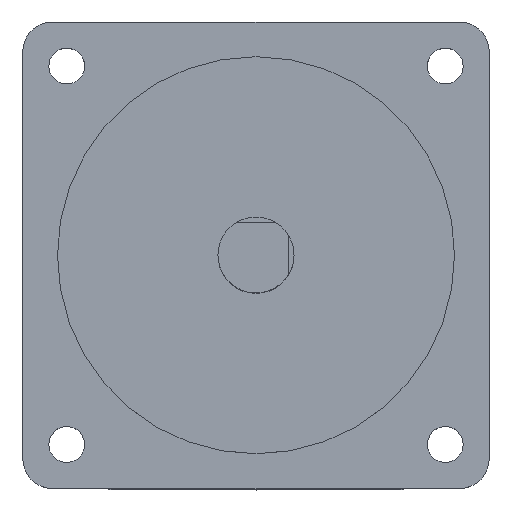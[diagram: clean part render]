
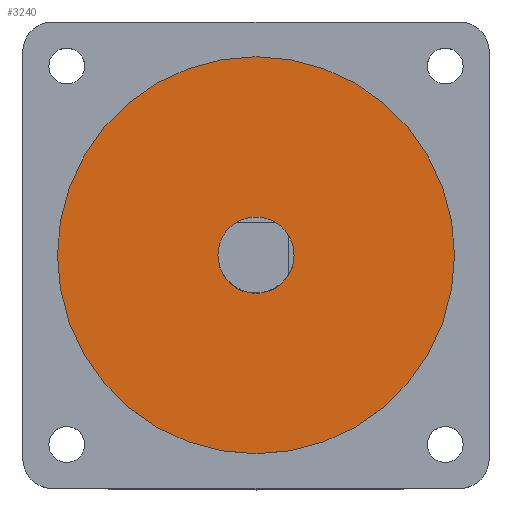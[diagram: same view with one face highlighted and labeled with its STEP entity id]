
A CAD part, top view. The second image highlights one B-rep face of the part: STEP entity #3240.
In plain terms, the highlighted planar face has unit normal (0, 0, 1).
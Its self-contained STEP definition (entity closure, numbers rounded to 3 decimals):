
#70 = AXIS2_PLACEMENT_3D ( 'NONE', #2989, #1177, #3288 ) ;
#221 = FACE_BOUND ( 'NONE', #2294, .T. ) ;
#259 = EDGE_CURVE ( 'NONE', #2209, #3895, #1147, .T. ) ;
#281 = CARTESIAN_POINT ( 'NONE',  ( 36.513, 0., 2. ) ) ;
#509 = CARTESIAN_POINT ( 'NONE',  ( -36.513, 0., 2. ) ) ;
#630 = ORIENTED_EDGE ( 'NONE', *, *, #3409, .T. ) ;
#791 = CARTESIAN_POINT ( 'NONE',  ( 0., 0., 2. ) ) ;
#1101 = EDGE_LOOP ( 'NONE', ( #1377, #1266 ) ) ;
#1102 = DIRECTION ( 'NONE',  ( 1., 0., 0. ) ) ;
#1147 = CIRCLE ( 'NONE', #1733, 7. ) ;
#1177 = DIRECTION ( 'NONE',  ( 0., 0., 1. ) ) ;
#1266 = ORIENTED_EDGE ( 'NONE', *, *, #1859, .T. ) ;
#1332 = CIRCLE ( 'NONE', #2105, 7. ) ;
#1377 = ORIENTED_EDGE ( 'NONE', *, *, #3892, .T. ) ;
#1479 = AXIS2_PLACEMENT_3D ( 'NONE', #3530, #1721, #3817 ) ;
#1480 = DIRECTION ( 'NONE',  ( 0., 0., 1. ) ) ;
#1721 = DIRECTION ( 'NONE',  ( 0., 0., 1. ) ) ;
#1733 = AXIS2_PLACEMENT_3D ( 'NONE', #3078, #3416, #3672 ) ;
#1859 = EDGE_CURVE ( 'NONE', #3560, #2153, #3250, .T. ) ;
#1874 = ORIENTED_EDGE ( 'NONE', *, *, #259, .T. ) ;
#2105 = AXIS2_PLACEMENT_3D ( 'NONE', #791, #2925, #1102 ) ;
#2153 = VERTEX_POINT ( 'NONE', #509 ) ;
#2209 = VERTEX_POINT ( 'NONE', #2669 ) ;
#2294 = EDGE_LOOP ( 'NONE', ( #1874, #630 ) ) ;
#2669 = CARTESIAN_POINT ( 'NONE',  ( -7., 0., 2. ) ) ;
#2925 = DIRECTION ( 'NONE',  ( 0., 0., -1. ) ) ;
#2930 = PLANE ( 'NONE',  #1479 ) ;
#2989 = CARTESIAN_POINT ( 'NONE',  ( 0., 0., 2. ) ) ;
#2997 = CARTESIAN_POINT ( 'NONE',  ( 7., 0., 2. ) ) ;
#3078 = CARTESIAN_POINT ( 'NONE',  ( 0., 0., 2. ) ) ;
#3240 = ADVANCED_FACE ( 'NONE', ( #3266, #221 ), #2930, .T. ) ;
#3250 = CIRCLE ( 'NONE', #70, 36.513 ) ;
#3266 = FACE_OUTER_BOUND ( 'NONE', #1101, .T. ) ;
#3288 = DIRECTION ( 'NONE',  ( 1., 0., 0. ) ) ;
#3297 = CARTESIAN_POINT ( 'NONE',  ( 0., 0., 2. ) ) ;
#3380 = CIRCLE ( 'NONE', #3739, 36.513 ) ;
#3409 = EDGE_CURVE ( 'NONE', #3895, #2209, #1332, .T. ) ;
#3416 = DIRECTION ( 'NONE',  ( 0., 0., -1. ) ) ;
#3530 = CARTESIAN_POINT ( 'NONE',  ( 0., 0., 2. ) ) ;
#3560 = VERTEX_POINT ( 'NONE', #281 ) ;
#3598 = DIRECTION ( 'NONE',  ( 1., 0., 0. ) ) ;
#3672 = DIRECTION ( 'NONE',  ( 1., 0., 0. ) ) ;
#3739 = AXIS2_PLACEMENT_3D ( 'NONE', #3297, #1480, #3598 ) ;
#3817 = DIRECTION ( 'NONE',  ( 1., 0., 0. ) ) ;
#3892 = EDGE_CURVE ( 'NONE', #2153, #3560, #3380, .T. ) ;
#3895 = VERTEX_POINT ( 'NONE', #2997 ) ;
